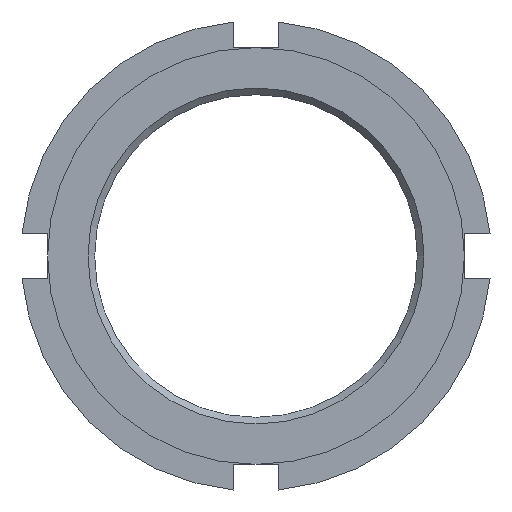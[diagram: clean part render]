
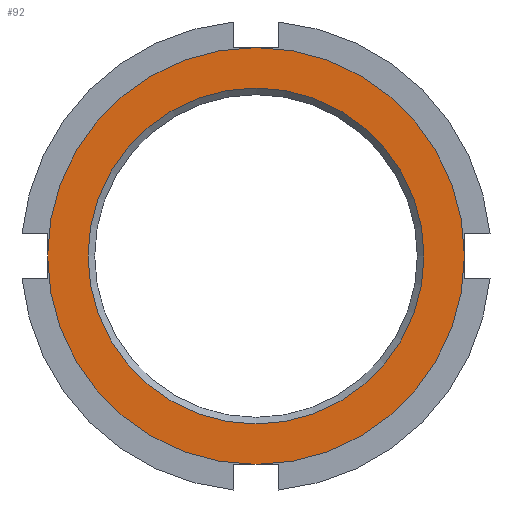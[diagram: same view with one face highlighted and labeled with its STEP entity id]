
A CAD part, left-side view. The second image highlights one B-rep face of the part: STEP entity #92.
In plain terms, the highlighted planar face has unit normal (-1, 0, 0).
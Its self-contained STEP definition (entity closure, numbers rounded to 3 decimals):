
#92 = ADVANCED_FACE( '', ( #150, #151 ), #152, .F. );
#150 = FACE_OUTER_BOUND( '', #228, .T. );
#151 = FACE_BOUND( '', #229, .T. );
#152 = PLANE( '', #230 );
#228 = EDGE_LOOP( '', ( #388 ) );
#229 = EDGE_LOOP( '', ( #389 ) );
#230 = AXIS2_PLACEMENT_3D( '', #390, #391, #392 );
#388 = ORIENTED_EDGE( '', *, *, #566, .F. );
#389 = ORIENTED_EDGE( '', *, *, #550, .T. );
#390 = CARTESIAN_POINT( '', ( 0., 0., 0. ) );
#391 = DIRECTION( '', ( 1., 0., 0. ) );
#392 = DIRECTION( '', ( 0., 0., -1. ) );
#550 = EDGE_CURVE( '', #656, #656, #657, .T. );
#566 = EDGE_CURVE( '', #680, #680, #681, .T. );
#656 = VERTEX_POINT( '', #841 );
#657 = CIRCLE( '', #842, 18.938 );
#680 = VERTEX_POINT( '', #890 );
#681 = CIRCLE( '', #891, 23.5 );
#841 = CARTESIAN_POINT( '', ( 0., 0., -18.938 ) );
#842 = AXIS2_PLACEMENT_3D( '', #971, #972, #973 );
#890 = CARTESIAN_POINT( '', ( 0., 0., -23.5 ) );
#891 = AXIS2_PLACEMENT_3D( '', #1002, #1003, #1004 );
#971 = CARTESIAN_POINT( '', ( 0., 0., 0. ) );
#972 = DIRECTION( '', ( 1., 0., 0. ) );
#973 = DIRECTION( '', ( 0., 0., -1. ) );
#1002 = CARTESIAN_POINT( '', ( 0., 0., 0. ) );
#1003 = DIRECTION( '', ( 1., 0., 0. ) );
#1004 = DIRECTION( '', ( 0., 0., -1. ) );
